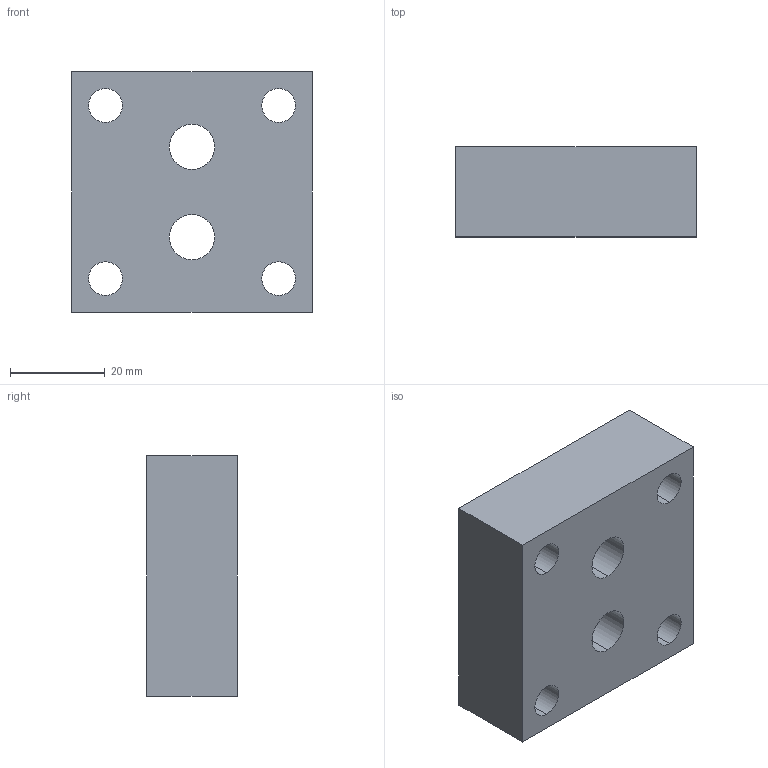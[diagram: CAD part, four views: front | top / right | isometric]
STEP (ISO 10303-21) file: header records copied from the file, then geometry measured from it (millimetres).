
FILE_DESCRIPTION (( 'STEP AP203' ), '1' );
FILE_NAME ('269-18-303.STEP', '2020-03-02T22:27:36', ( '' ), ( '' ), 'SwSTEP 2.0', 'SolidWorks 2017', '' );
FILE_SCHEMA (( 'CONFIG_CONTROL_DESIGN' ));
Length unit declared in the file: inch
Products named in the file (1): 269-18-303
Bounding box: 50.8 x 19.05 x 50.8 mm (x, y, z)
Volume: 42159 mm3; surface area: 11563.9 mm2
Topology: 1 solids, 1 shells, 30 faces, 72 edges, 48 vertices
Faces by surface type: cylinder 20, plane 10
Entity records: 999 total; most frequent: DIRECTION 174, CARTESIAN_POINT 151, ORIENTED_EDGE 144, EDGE_CURVE 72, AXIS2_PLACEMENT_3D 71, VERTEX_POINT 48, EDGE_LOOP 46, CIRCLE 40
